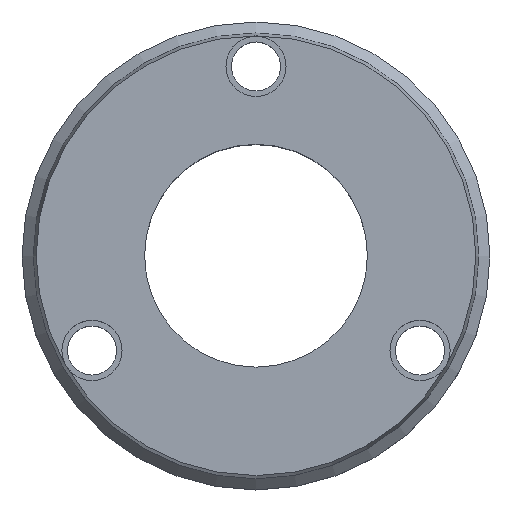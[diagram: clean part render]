
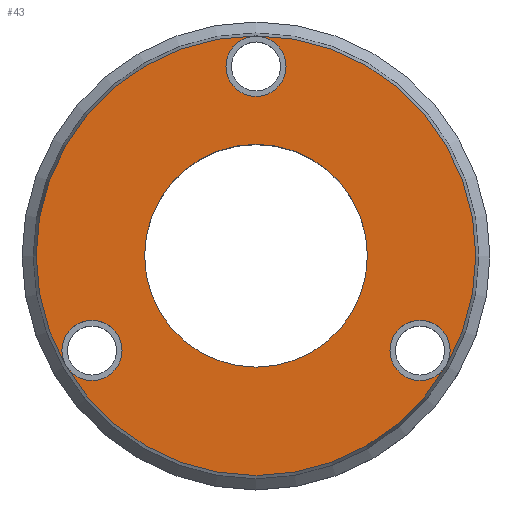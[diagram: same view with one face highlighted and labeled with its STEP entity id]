
A CAD part, top view. The second image highlights one B-rep face of the part: STEP entity #43.
In plain terms, the highlighted planar face has unit normal (0, 0, 1).
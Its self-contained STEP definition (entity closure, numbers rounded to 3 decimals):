
#37=PLANE('',#257);
#43=ADVANCED_FACE('',(#70,#71,#72,#73,#74),#37,.T.);
#70=FACE_BOUND('',#110,.T.);
#71=FACE_BOUND('',#111,.T.);
#72=FACE_BOUND('',#112,.T.);
#73=FACE_BOUND('',#113,.T.);
#74=FACE_BOUND('',#114,.T.);
#110=EDGE_LOOP('',(#150));
#111=EDGE_LOOP('',(#151));
#112=EDGE_LOOP('',(#152));
#113=EDGE_LOOP('',(#153));
#114=EDGE_LOOP('',(#154));
#150=ORIENTED_EDGE('',*,*,#210,.T.);
#151=ORIENTED_EDGE('',*,*,#211,.T.);
#152=ORIENTED_EDGE('',*,*,#212,.T.);
#153=ORIENTED_EDGE('',*,*,#213,.T.);
#154=ORIENTED_EDGE('',*,*,#214,.T.);
#190=VERTEX_POINT('',#369);
#191=VERTEX_POINT('',#371);
#192=VERTEX_POINT('',#373);
#193=VERTEX_POINT('',#375);
#194=VERTEX_POINT('',#377);
#210=EDGE_CURVE('',#190,#190,#230,.T.);
#211=EDGE_CURVE('',#191,#191,#231,.T.);
#212=EDGE_CURVE('',#192,#192,#232,.T.);
#213=EDGE_CURVE('',#193,#193,#233,.T.);
#214=EDGE_CURVE('',#194,#194,#234,.T.);
#230=CIRCLE('',#252,9.866);
#231=CIRCLE('',#253,1.35);
#232=CIRCLE('',#254,1.35);
#233=CIRCLE('',#255,1.35);
#234=CIRCLE('',#256,5.);
#252=AXIS2_PLACEMENT_3D('',#368,#294,#295);
#253=AXIS2_PLACEMENT_3D('',#370,#296,#297);
#254=AXIS2_PLACEMENT_3D('',#372,#298,#299);
#255=AXIS2_PLACEMENT_3D('',#374,#300,#301);
#256=AXIS2_PLACEMENT_3D('',#376,#302,#303);
#257=AXIS2_PLACEMENT_3D('',#378,#304,#305);
#294=DIRECTION('',(0.,0.,1.));
#295=DIRECTION('',(1.,0.,0.));
#296=DIRECTION('',(0.,0.,-1.));
#297=DIRECTION('',(-1.,0.,0.));
#298=DIRECTION('',(0.,0.,-1.));
#299=DIRECTION('',(-1.,0.,0.));
#300=DIRECTION('',(0.,0.,-1.));
#301=DIRECTION('',(-1.,0.,0.));
#302=DIRECTION('',(0.,0.,-1.));
#303=DIRECTION('',(-1.,0.,0.));
#304=DIRECTION('',(0.,0.,1.));
#305=DIRECTION('',(1.,0.,0.));
#368=CARTESIAN_POINT('',(0.,0.,8.6));
#369=CARTESIAN_POINT('',(9.866,0.,8.6));
#370=CARTESIAN_POINT('',(7.361,-4.25,8.6));
#371=CARTESIAN_POINT('',(6.011,-4.25,8.6));
#372=CARTESIAN_POINT('',(-7.361,-4.25,8.6));
#373=CARTESIAN_POINT('',(-8.711,-4.25,8.6));
#374=CARTESIAN_POINT('',(0.,8.5,8.6));
#375=CARTESIAN_POINT('',(-1.35,8.5,8.6));
#376=CARTESIAN_POINT('',(0.,0.,8.6));
#377=CARTESIAN_POINT('',(-5.,0.,8.6));
#378=CARTESIAN_POINT('',(0.,0.,8.6));
